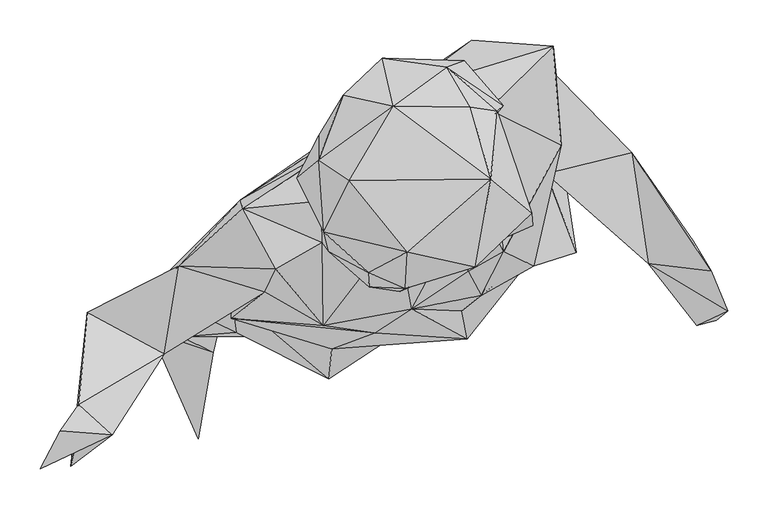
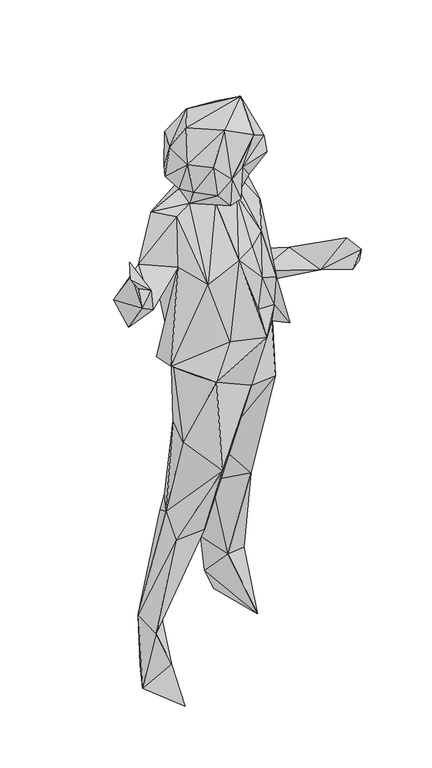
"""IFC4 building model written with IfcOpenShell, lengths in millimetres: geographic element geometry, Enscape AssetDefinition - Aimee 002 Standing : Enscape AssetDefinition - Aimee 002 Standing."""

from ifc_helpers import new_model, si_unit, origin, place, context, project, spatial, faceted_brep, source, transform, mapped, element, save


def geographic_element_5954a063(model_context):
    return source(origin(), model_context, "Body", "Brep", [
        faceted_brep([(57.3834553, 171.1283922, 1105.0271988), (-136.5523189, 73.3110234, 1368.216157), (150.3689438, 271.1966932, 1312.1556044), (-6.2028328, 146.2750584, 1483.3110571), (-133.505404, 62.2873232, 1485.3689671), (-106.3921303, -40.992897, 1351.2445688), (-80.4858357, 44.0638103, 1013.338685), (36.6650112, 186.31199, 1446.7409849), (-283.9133441, -74.1880015, 1230.0589085), (-213.1172568, -8.4027741, 1379.3969154), (251.0882318, 263.8988793, 1433.4564209), (129.0295273, 226.6388834, 1466.8514729), (38.9719494, 226.3509035, 1496.0876703), (171.4483798, 185.8259887, 1479.6460867), (140.8832073, 245.7713932, 1546.800375), (77.3329139, 233.8186949, 1519.6421146), (260.9259784, 141.0751939, 1343.3097601), (254.7411323, 227.5898606, 1121.5977669), (189.9628788, 9.1927527, 1337.8179073), (226.9288898, -8.832762, 1182.1382046), (242.3364818, 106.0071439, 1127.4386644), (214.0432298, 164.4685715, 1051.4976978), (348.4986126, 131.8694502, 1154.7498703), (167.010501, 178.5731912, 1172.6534367), (110.1740375, 220.7870483, 945.5865622), (-29.0382188, 121.8027174, 979.536593), (-80.5128366, 32.9221115, 777.5580287), (71.5670735, 54.5095317, 791.9216156), (-123.568669, 4.3628826, 564.2977953), (-111.8659899, -76.8559277, 783.5168839), (-147.8760242, -46.057757, 544.1423059), (-122.6036996, 30.949166, 493.7307239), (-141.8141723, -90.94055, 471.7723131), (-235.8556539, -44.91679, 223.876968), (-26.7142802, -148.7910002, 699.9611259), (-23.2493747, -111.2970039, 975.3267169), (124.0096614, -49.6516638, 876.7303824), (-52.837573, -95.9094167, 479.2121053), (-208.8873684, -96.6893956, 181.9881052), (-40.8849008, -24.5303381, 467.2194421), (-149.8649716, -28.6812279, 168.8044518), (-247.8033304, -89.4685835, 7.0708091), (-170.3374237, -115.4488921, 77.2139207), (-159.26072, 24.895329, 273.344636), (-196.1627156, 12.7686569, 7.0708091), (-189.5638853, -42.4628556, 7.0708091), (-188.7979209, -222.7410078, 7.0458101), (111.5199924, 168.7824577, 812.505126), (96.1804166, 85.6026933, 602.5607586), (227.8728485, -0.8769764, 842.5393105), (146.255061, 173.8693118, 575.9464502), (205.0974667, 195.4577416, 810.4602098), (267.8417861, 85.201703, 964.7919536), (276.8525481, 122.8856966, 791.76265), (233.7967008, 27.7212542, 1008.6948872), (279.7364593, 8.4177731, 998.8971353), (424.4695902, 22.6303898, 1142.6292658), (368.8120544, -5.8018439, 1154.4169188), (230.3297967, 9.0127578, 1077.4979591), (161.7926508, -45.166783, 1223.7290144), (137.5463009, -64.6682605, 1137.0563507), (144.8221058, -98.8783315, 1060.7134104), (75.8239552, -61.7993362, 1323.4022856), (145.8140761, -15.3475869, 1315.7365322), (152.4918973, 80.6238279, 1430.0094843), (120.5687597, -4.7978708, 1586.659193), (58.0914356, 36.6820097, 1465.8635855), (146.3210583, 140.6402141, 1518.1361437), (181.2911183, 64.5482615, 1501.0145903), (157.7687562, 150.5749524, 1597.6959467), (224.5059609, 57.1244583, 1620.8072901), (189.2158985, 190.1578754, 1562.7799034), (225.774914, 41.6608788, 1574.2256641), (173.4763384, 99.2113277, 1745.857954), (182.0600927, 183.4740639, 1645.5097198), (154.7358334, -9.916733, 1687.8695488), (119.3127856, 237.6345843, 1627.8611422), (148.2460052, 188.3779317, 1686.1095428), (-1.521959, 97.3633751, 1701.2301683), (53.1785674, 189.8018867, 1691.1405325), (70.5480948, 8.5207708, 1722.417593), (67.8971708, -36.6740115, 1584.2113495), (21.6564164, -16.8675464, 1627.1841526), (-33.1101082, 33.3101042, 1626.0071993), (-39.5399369, 122.3947108, 1633.3270073), (-27.2542667, 9.3307486, 1545.671463), (-37.4129936, 71.8520656, 1523.4539509), (-66.3922131, 100.0743061, 1559.1310263), (23.2073758, -34.9910557, 1543.0544615), (-34.9620581, 20.2044547, 1505.7125092), (-39.1399451, 152.7788937, 1554.1541576), (-3.3259103, 199.3946284, 1566.4768219), (-9.1077546, 203.1195313, 1626.2292862), (39.2929427, 249.2632866, 1576.3626099), (61.1673519, -40.5399092, 1499.6185303), (-33.8620879, -82.2177827, 1290.5862331), (-92.5885066, -12.5106638, 1498.7996817), (105.7041511, -21.347424, 1496.989727), (30.261185, -91.5745273, 1081.8867683), (-147.7020234, -73.717013, 1049.7727394), (-69.3771318, -77.2829205, 993.1092262), (-142.8071558, 16.4495576, 1025.9753466), (-230.9247702, -117.430836, 1296.9690561), (-326.28721, -66.0052225, 1333.5410357), (-346.5206623, -256.9420934, 1427.5634289), (-336.6349041, -180.1351458, 1485.5970144), (-295.3320444, -218.3411121, 1446.5000629), (-340.7198191, -228.971839, 1474.8651981), (-360.0292802, -212.9362673, 1561.0829592), (-384.3926489, -260.4709864, 1539.7984982), (191.1388636, 69.7371215, 484.7839177), (227.7348638, 128.1065494, 502.4124384), (91.5675312, 115.773879, 466.7634368), (146.5060562, 119.1577837, 196.4107007), (110.6850207, 209.237352, 214.5712227), (199.1876364, 170.8383858, 546.5223193), (202.1365464, 187.5469387, 227.9188484), (106.5021306, 181.9251031, 117.6988259), (207.2604299, 61.609339, 8.5687693), (203.1185329, 131.0404688, 191.3038343), (225.3239453, 167.1134979, 23.6283634), (136.9183064, 184.3370348, 43.8918173), (447.072953, -14.7296041, 1241.6785955), (467.2743976, -64.2562658, 1225.4339457), (429.1864336, -82.2977796, 1181.4701557), (453.4397721, -76.3849393, 1200.0826597)], [[[0, 1, 2]], [[3, 1, 4]], [[5, 1, 6]], [[2, 1, 7]], [[8, 1, 5]], [[1, 9, 4]], [[1, 8, 9]], [[6, 1, 0]], [[7, 1, 3]], [[10, 7, 11]], [[11, 7, 12]], [[7, 10, 2]], [[7, 3, 12]], [[11, 13, 10]], [[14, 13, 11]], [[15, 14, 11]], [[15, 11, 12]], [[10, 13, 16]], [[16, 17, 10]], [[10, 17, 2]], [[16, 13, 18]], [[19, 20, 16]], [[16, 18, 19]], [[20, 17, 16]], [[2, 17, 21]], [[17, 20, 22]], [[22, 21, 17]], [[2, 23, 0]], [[23, 2, 21]], [[23, 21, 0]], [[24, 0, 21]], [[24, 25, 0]], [[0, 25, 6]], [[26, 25, 24]], [[6, 25, 26]], [[26, 24, 27]], [[26, 27, 28]], [[29, 6, 26]], [[29, 26, 30]], [[28, 30, 26]], [[27, 31, 28]], [[31, 30, 28]], [[32, 30, 33]], [[34, 29, 30]], [[30, 32, 34]], [[33, 30, 31]], [[29, 35, 6]], [[35, 29, 34]], [[36, 35, 34]], [[37, 36, 34]], [[34, 32, 37]], [[38, 32, 33]], [[32, 38, 37]], [[37, 38, 39]], [[39, 27, 37]], [[27, 36, 37]], [[40, 39, 38]], [[41, 38, 33]], [[40, 38, 42]], [[42, 38, 41]], [[39, 43, 31]], [[27, 39, 31]], [[40, 43, 39]], [[31, 43, 33]], [[33, 43, 40]], [[44, 33, 40]], [[42, 45, 40]], [[40, 45, 44]], [[46, 45, 42]], [[46, 42, 41]], [[41, 45, 46]], [[41, 44, 45]], [[41, 33, 44]], [[47, 48, 27]], [[49, 27, 48]], [[47, 27, 24]], [[36, 27, 49]], [[48, 47, 50]], [[47, 51, 50]], [[51, 47, 24]], [[24, 21, 52]], [[51, 24, 52]], [[53, 51, 52]], [[51, 53, 50]], [[53, 52, 49]], [[52, 21, 20]], [[49, 52, 54]], [[55, 54, 52]], [[55, 52, 20]], [[22, 56, 21]], [[21, 57, 20]], [[57, 21, 56]], [[22, 20, 57]], [[55, 20, 19]], [[19, 58, 55]], [[55, 58, 54]], [[58, 19, 59]], [[19, 18, 59]], [[60, 58, 59]], [[61, 58, 60]], [[61, 54, 58]], [[59, 62, 60]], [[63, 62, 59]], [[59, 18, 63]], [[18, 13, 64]], [[64, 63, 18]], [[64, 62, 63]], [[64, 65, 66]], [[66, 62, 64]], [[64, 13, 67]], [[68, 64, 67]], [[68, 65, 64]], [[13, 14, 67]], [[69, 70, 67]], [[67, 14, 71]], [[67, 70, 68]], [[71, 69, 67]], [[72, 65, 68]], [[70, 72, 68]], [[65, 72, 70]], [[73, 70, 74]], [[75, 65, 70]], [[70, 73, 75]], [[69, 74, 70]], [[71, 74, 69]], [[71, 14, 76]], [[76, 74, 71]], [[73, 74, 77]], [[77, 74, 76]], [[78, 73, 79]], [[78, 80, 73]], [[79, 73, 77]], [[73, 80, 75]], [[75, 80, 81]], [[81, 65, 75]], [[82, 80, 83]], [[81, 80, 82]], [[83, 80, 78]], [[79, 84, 78]], [[84, 83, 78]], [[83, 85, 82]], [[85, 83, 86]], [[87, 83, 84]], [[86, 83, 87]], [[82, 85, 88]], [[88, 81, 82]], [[85, 86, 89]], [[88, 85, 89]], [[3, 4, 86]], [[89, 86, 4]], [[86, 90, 3]], [[86, 87, 90]], [[90, 87, 84]], [[12, 90, 91]], [[92, 90, 84]], [[90, 12, 3]], [[92, 91, 90]], [[12, 91, 93]], [[91, 92, 93]], [[93, 15, 12]], [[93, 14, 15]], [[14, 93, 76]], [[79, 76, 93]], [[93, 92, 79]], [[84, 79, 92]], [[76, 79, 77]], [[89, 94, 88]], [[95, 66, 89]], [[96, 95, 89]], [[89, 66, 94]], [[89, 4, 96]], [[94, 81, 88]], [[97, 81, 94]], [[66, 97, 94]], [[95, 62, 66]], [[97, 66, 65]], [[97, 65, 81]], [[62, 95, 98]], [[98, 95, 99]], [[95, 5, 99]], [[5, 95, 96]], [[62, 98, 61]], [[61, 60, 62]], [[98, 99, 35]], [[35, 61, 98]], [[54, 61, 36]], [[61, 35, 36]], [[99, 100, 35]], [[35, 100, 6]], [[100, 99, 6]], [[6, 101, 5]], [[99, 101, 6]], [[101, 99, 5]], [[102, 5, 9]], [[9, 5, 96]], [[5, 102, 8]], [[102, 9, 103]], [[9, 8, 103]], [[9, 96, 4]], [[8, 104, 103]], [[102, 104, 8]], [[105, 102, 103]], [[105, 103, 104]], [[106, 102, 105]], [[106, 104, 102]], [[107, 105, 104]], [[107, 104, 106]], [[106, 105, 108]], [[108, 105, 109]], [[107, 109, 105]], [[108, 109, 106]], [[107, 106, 109]], [[54, 36, 49]], [[49, 48, 110]], [[111, 53, 49]], [[49, 110, 111]], [[50, 112, 48]], [[110, 48, 112]], [[113, 110, 112]], [[113, 112, 114]], [[50, 114, 112]], [[53, 115, 50]], [[115, 114, 50]], [[53, 111, 115]], [[111, 114, 115]], [[116, 114, 111]], [[116, 111, 110]], [[113, 114, 117]], [[116, 117, 114]], [[118, 113, 117]], [[118, 119, 113]], [[110, 113, 119]], [[116, 120, 117]], [[117, 121, 118]], [[121, 117, 120]], [[119, 116, 110]], [[116, 119, 120]], [[118, 120, 119]], [[121, 120, 118]], [[122, 22, 57]], [[22, 122, 56]], [[123, 122, 57]], [[124, 57, 56]], [[57, 124, 123]], [[122, 123, 56]], [[125, 124, 56]], [[125, 56, 123]], [[123, 124, 125]]]),
    ])


if __name__ == "__main__":
    model = new_model("IFC4")
    model_context = context("Model", 3, world=origin())
    ifc_project = project(units=[si_unit("LENGTHUNIT", "METRE", prefix="MILLI")], contexts=[model_context])
    site = spatial("IfcSite", under=ifc_project)
    building = spatial("IfcBuilding", under=site)
    placement = place(None, origin())
    geographic_element_shape = geographic_element_5954a063(model_context)
    element("IfcGeographicElement", 1, ObjectType="Enscape AssetDefinition - Aimee 002 Standing : Enscape AssetDefinition - Aimee 002 Standing", at=placement, inside=building, context=model_context, shape_type="MappedRepresentation", body=[
        mapped(geographic_element_shape, transform((0.0, 0.0, 0.0), x_axis=(1.0, 0.0, 0.0), y_axis=(0.0, 1.0, 0.0), z_axis=(0.0, 0.0, 1.0))),
    ])
    save(model, "model.ifc")
